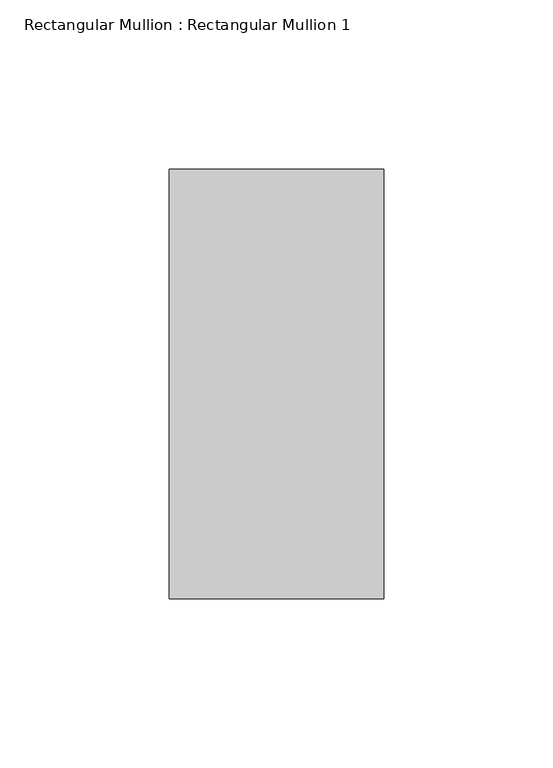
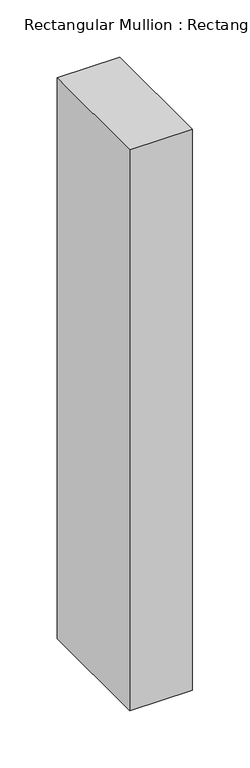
"""IFC4 building model written with IfcOpenShell, lengths in millimetres: member geometry, Rectangular Mullion : Rectangular Mullion 1."""

from ifc_helpers import new_model, si_unit, frame, origin, place, context, project, spatial, polyline, outline, extrude, source, transform, mapped, element, save


def rectangular_mullion_rectangular_mullion_1_8a9972a7(model_context):
    return source(origin(), model_context, "Body", "SweptSolid", [
        extrude(outline(polyline([(0.0, 63.5), (0.0, -63.5), (-63.5, -63.5), (-63.5, 63.5), (0.0, 63.5)])), frame((0.0, 0.0, -599.5475583), z_axis=(0.0, 0.0, 1.0), x_axis=(1.0, 0.0, 0.0)), (0.0, 0.0, 1.0), 599.5475583),
    ])


if __name__ == "__main__":
    model = new_model("IFC4")
    model_context = context("Model", 3, world=origin())
    ifc_project = project(units=[si_unit("LENGTHUNIT", "METRE", prefix="MILLI")], contexts=[model_context])
    site = spatial("IfcSite", under=ifc_project)
    building = spatial("IfcBuilding", under=site)
    placement = place(None, origin())
    rectangular_mullion_rectangular_mullion_1_shape = rectangular_mullion_rectangular_mullion_1_8a9972a7(model_context)
    element("IfcMember", 1, ObjectType="Rectangular Mullion : Rectangular Mullion 1", at=placement, inside=building, context=model_context, shape_type="MappedRepresentation", body=[
        mapped(rectangular_mullion_rectangular_mullion_1_shape, transform((0.0, 0.0, 0.0), x_axis=(1.0, 0.0, 0.0), y_axis=(0.0, 1.0, 0.0), z_axis=(0.0, 0.0, 1.0))),
    ])
    save(model, "model.ifc")
